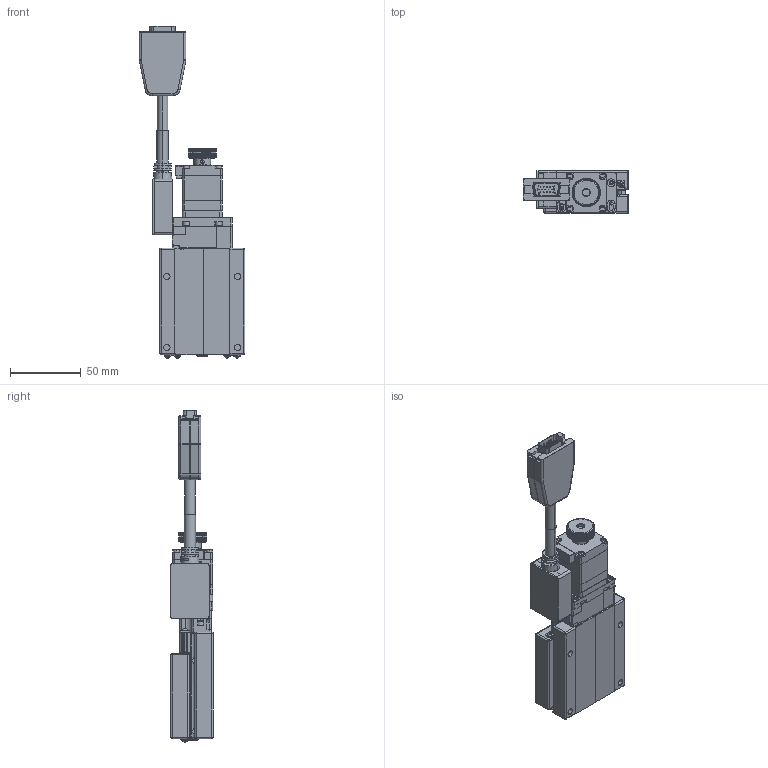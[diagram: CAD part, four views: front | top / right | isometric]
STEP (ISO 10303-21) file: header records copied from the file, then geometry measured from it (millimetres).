
FILE_DESCRIPTION (( 'STEP AP203' ), '1' );
FILE_NAME ('CXS6030-S2OP.STEP', '2024-10-14T00:40:19', ( '' ), ( '' ), 'SwSTEP 2.0', 'SolidWorks 2019', '' );
FILE_SCHEMA (( 'CONFIG_CONTROL_DESIGN' ));
Length unit declared in the file: millimetre
Products named in the file (9): PKP523BK_前12mm後10mm; Group1^CXS6030(28框無馬達)_defeature_GMT; Group2^CXS6030(28框無馬達)_defeature_GMT; SC2.5B006_SCM435(化鎳); CXS6030-05-00-1^CXS6030(28框無馬達)_defeature_GMT; CXS50-G28_GMT; CXS6030-S2OP; AR39-A3P-10; CXS60-504
Assembly tree (11 placements, depth 2):
  CXS6030-S2OP
    Group1^CXS6030(28框無馬達)_defeature_GMT
    Group2^CXS6030(28框無馬達)_defeature_GMT
    CXS6030-05-00-1^CXS6030(28框無馬達)_defeature_GMT
    CXS50-G28_GMT
    SC2.5B006_SCM435(化鎳)  x4
    CXS60-504
    PKP523BK_前12mm後10mm
    AR39-A3P-10
Bounding box: 74.5 x 30 x 234.01 mm (x, y, z)
Volume: 161576.7 mm3; surface area: 75912 mm2
Topology: 16 solids, 16 shells, 3334 faces, 8636 edges, 5466 vertices
Faces by surface type: plane 1817, cylinder 816, torus 232, cone 201, bspline 166, sphere 102
Entity records: 108322 total; most frequent: CARTESIAN_POINT 28681, ORIENTED_EDGE 16796, DIRECTION 15902, EDGE_CURVE 8398, AXIS2_PLACEMENT_3D 5562, VERTEX_POINT 5367, LINE 4778, VECTOR 4778
